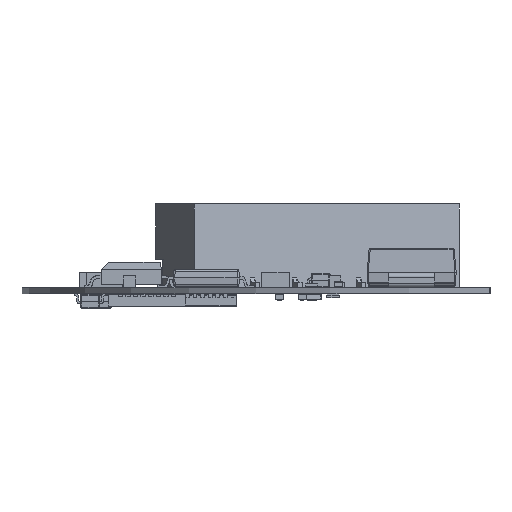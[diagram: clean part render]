
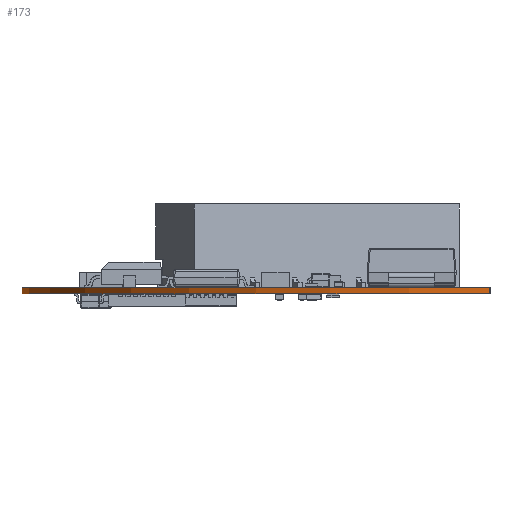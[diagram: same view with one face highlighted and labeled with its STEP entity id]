
A CAD part, left-side view. The second image highlights one B-rep face of the part: STEP entity #173.
In plain terms, the highlighted cylindrical face has radius 31 mm (diameter 62 mm), a partial arc.
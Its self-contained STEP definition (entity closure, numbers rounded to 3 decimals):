
#173 = ADVANCED_FACE('',(#174),#210,.T.);
#174 = FACE_BOUND('',#175,.T.);
#175 = EDGE_LOOP('',(#176,#186,#195,#203));
#176 = ORIENTED_EDGE('',*,*,#177,.T.);
#177 = EDGE_CURVE('',#178,#180,#182,.T.);
#178 = VERTEX_POINT('',#179);
#179 = CARTESIAN_POINT('',(0.086,0.015,
    0.));
#180 = VERTEX_POINT('',#181);
#181 = CARTESIAN_POINT('',(0.086,0.015,
    0.411));
#182 = LINE('',#183,#184);
#183 = CARTESIAN_POINT('',(0.086,0.015,
    0.));
#184 = VECTOR('',#185,1.);
#185 = DIRECTION('',(0.,0.,1.));
#186 = ORIENTED_EDGE('',*,*,#187,.T.);
#187 = EDGE_CURVE('',#180,#188,#190,.T.);
#188 = VERTEX_POINT('',#189);
#189 = CARTESIAN_POINT('',(62.086,0.015,0.411)
  );
#190 = CIRCLE('',#191,31.);
#191 = AXIS2_PLACEMENT_3D('',#192,#193,#194);
#192 = CARTESIAN_POINT('',(31.086,0.015,0.411)
  );
#193 = DIRECTION('',(0.,0.,-1.));
#194 = DIRECTION('',(-1.,0.,0.));
#195 = ORIENTED_EDGE('',*,*,#196,.F.);
#196 = EDGE_CURVE('',#197,#188,#199,.T.);
#197 = VERTEX_POINT('',#198);
#198 = CARTESIAN_POINT('',(62.086,0.015,0.)
  );
#199 = LINE('',#200,#201);
#200 = CARTESIAN_POINT('',(62.086,0.015,0.)
  );
#201 = VECTOR('',#202,1.);
#202 = DIRECTION('',(0.,0.,1.));
#203 = ORIENTED_EDGE('',*,*,#204,.F.);
#204 = EDGE_CURVE('',#178,#197,#205,.T.);
#205 = CIRCLE('',#206,31.);
#206 = AXIS2_PLACEMENT_3D('',#207,#208,#209);
#207 = CARTESIAN_POINT('',(31.086,0.015,0.)
  );
#208 = DIRECTION('',(0.,0.,-1.));
#209 = DIRECTION('',(-1.,0.,0.));
#210 = CYLINDRICAL_SURFACE('',#211,31.);
#211 = AXIS2_PLACEMENT_3D('',#212,#213,#214);
#212 = CARTESIAN_POINT('',(31.086,0.015,0.)
  );
#213 = DIRECTION('',(0.,0.,-1.));
#214 = DIRECTION('',(-1.,0.,0.));
